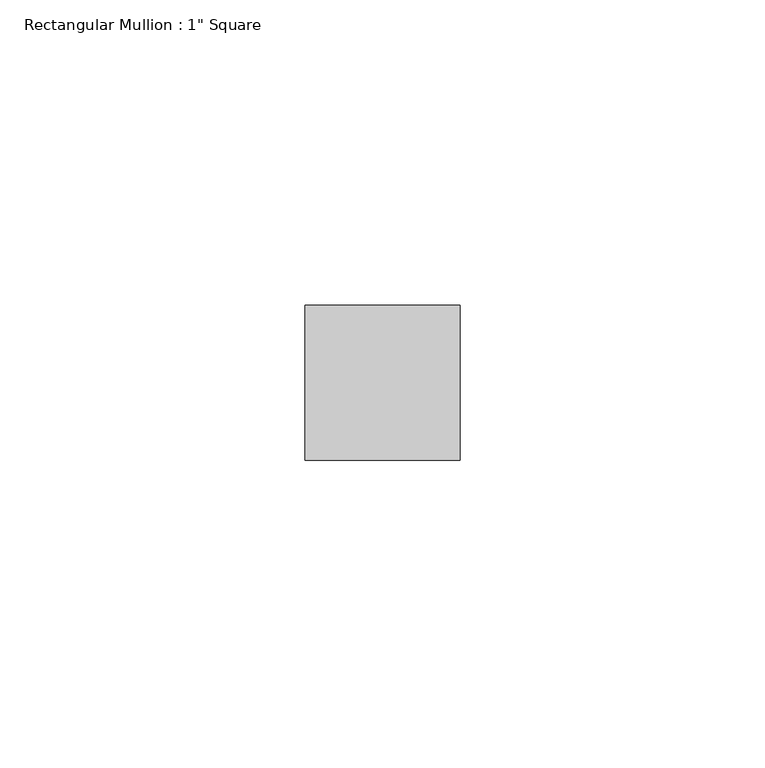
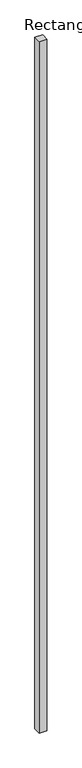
"""IFC4 building model written with IfcOpenShell, lengths in millimetres: member geometry."""

from ifc_helpers import new_model, si_unit, frame, origin, place, context, project, spatial, polyline, outline, extrude, source, transform, mapped, element, save


def member_29374509(model_context):
    return source(origin(), model_context, "Body", "SweptSolid", [
        extrude(outline(polyline([(12.7, -19.05), (12.7, -44.45), (-12.7, -44.45), (-12.7, -19.05), (12.7, -19.05)])), frame((0.0, 0.0, -2438.4), z_axis=(0.0, 0.0, 1.0), x_axis=(1.0, 0.0, 0.0)), (0.0, 0.0, 1.0), 2438.4),
    ])


if __name__ == "__main__":
    model = new_model("IFC4")
    model_context = context("Model", 3, world=origin())
    ifc_project = project(units=[si_unit("LENGTHUNIT", "METRE", prefix="MILLI")], contexts=[model_context])
    site = spatial("IfcSite", under=ifc_project)
    building = spatial("IfcBuilding", under=site)
    placement = place(None, origin())
    member_shape = member_29374509(model_context)
    element("IfcMember", 1, ObjectType="Rectangular Mullion : 1\" Square", at=placement, inside=building, context=model_context, shape_type="MappedRepresentation", body=[
        mapped(member_shape, transform((0.0, 0.0, 0.0), x_axis=(1.0, 0.0, 0.0), y_axis=(0.0, 1.0, 0.0), z_axis=(0.0, 0.0, 1.0))),
    ])
    save(model, "model.ifc")
